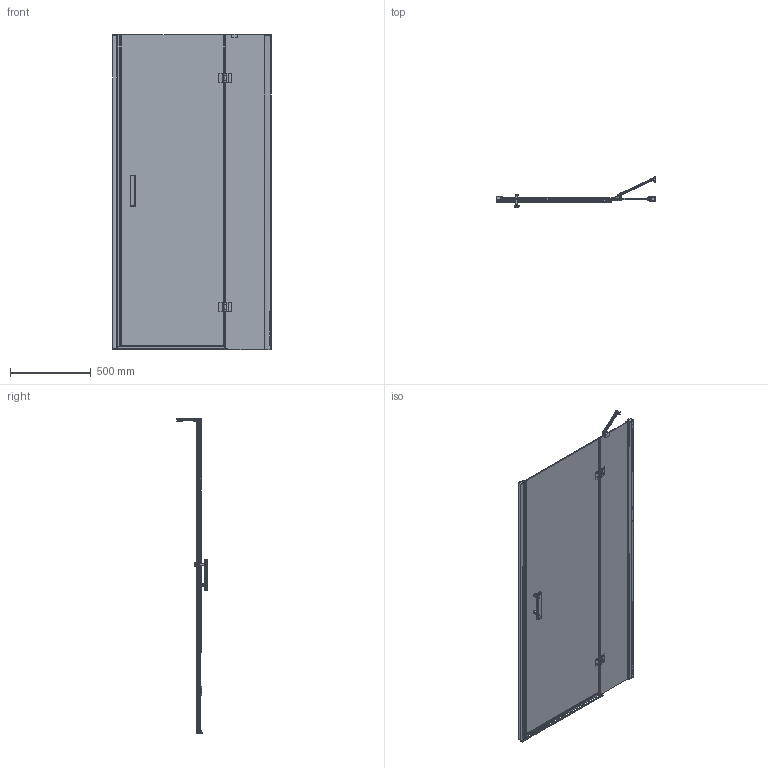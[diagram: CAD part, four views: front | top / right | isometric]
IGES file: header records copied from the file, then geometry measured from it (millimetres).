
Global section: file name: C:\Users\user\Downloads\MOOC_20160920_(2z2)\Manhattan ADP10X LUX T\Manhattan ADP10X LUX T.igs; native system: Rhinoceros ( Feb  3 2015 ); preprocessor: Trout Lake IGES 012 Feb  3 2015; date: 161010.095643; units: millimetre
Bounding box: 980.07 x 187.23 x 1957.49 mm (x, y, z)
Surface area: 5252185.1 mm2 (no closed solid volume)
Topology: 0 solids, 0 shells, 2622 faces, 15957 edges, 15921 vertices
Faces by surface type: bspline 2622
